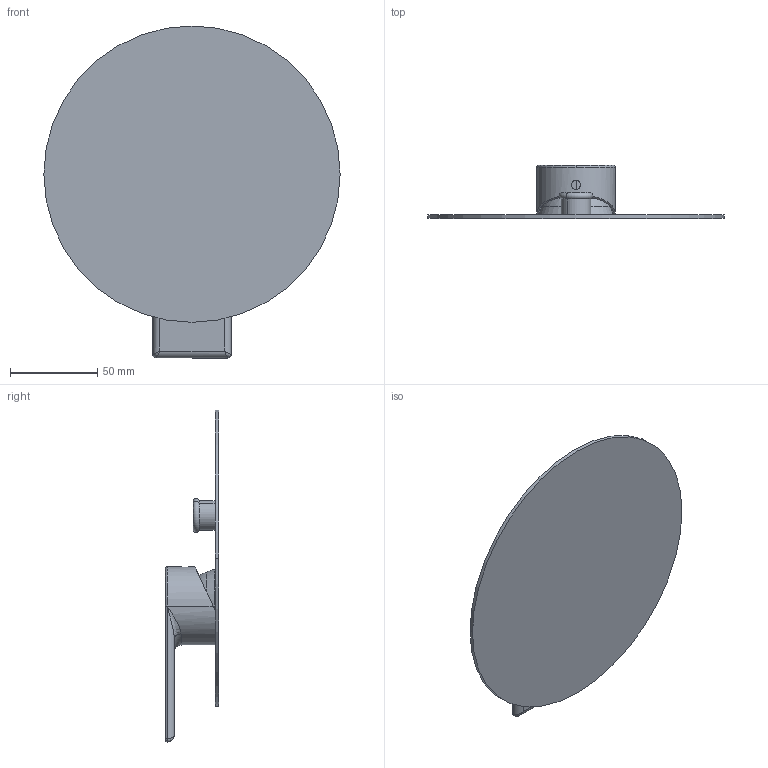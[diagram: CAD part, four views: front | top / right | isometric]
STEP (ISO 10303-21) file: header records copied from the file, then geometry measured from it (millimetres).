
FILE_DESCRIPTION (( 'STEP AP214' ), '1' );
FILE_NAME ('80117510 x architetti.STEP', '2025-03-05T11:02:15', ( '' ), ( '' ), 'SwSTEP 2.0', 'SolidWorks 2020', '' );
FILE_SCHEMA (( 'AUTOMOTIVE_DESIGN' ));
Length unit declared in the file: millimetre
Products named in the file (1): 80117510 x architetti
Bounding box: 170 x 30.5 x 190.5 mm (x, y, z)
Volume: 94982.3 mm3; surface area: 65306.2 mm2
Topology: 1 solids, 3 shells, 63 faces, 141 edges, 82 vertices
Faces by surface type: cylinder 26, plane 11, cone 9, torus 7, bspline 6, sphere 4
Entity records: 3079 total; most frequent: CARTESIAN_POINT 1040, DIRECTION 305, ORIENTED_EDGE 274, EDGE_CURVE 137, AXIS2_PLACEMENT_3D 133, VERTEX_POINT 82, CIRCLE 75, EDGE_LOOP 71
